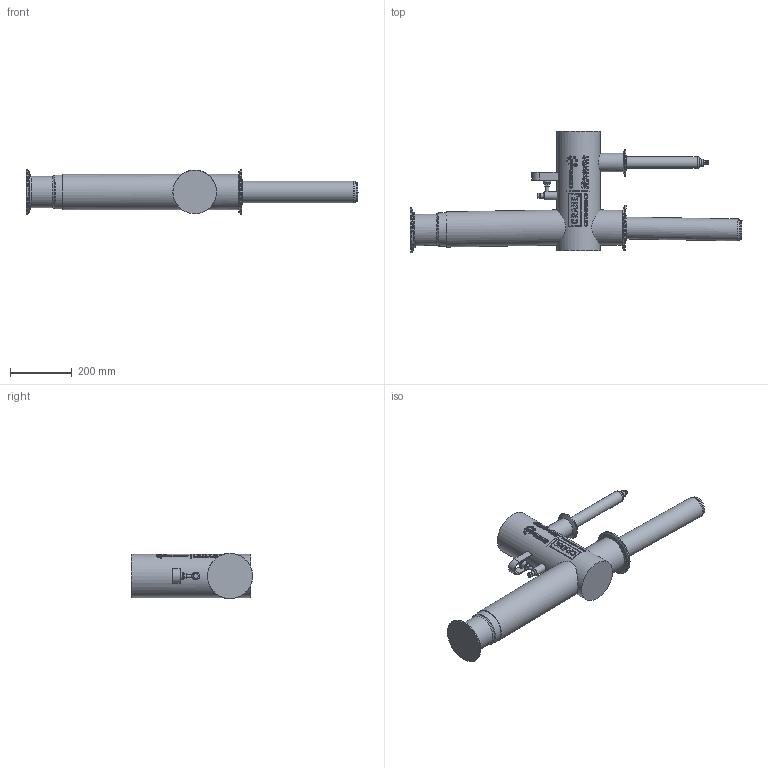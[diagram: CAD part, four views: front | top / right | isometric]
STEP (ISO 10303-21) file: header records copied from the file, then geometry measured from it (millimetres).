
FILE_DESCRIPTION (( 'STEP AP203' ), '1' );
FILE_NAME ('CA00380-TF.step', '2025-12-17T20:01:47', ( '' ), ( '' ), 'SwSTEP 2.0', 'SolidWorks 2023', '' );
FILE_SCHEMA (( 'CONFIG_CONTROL_DESIGN' ));
Length unit declared in the file: inch
Products named in the file (1): CA00380-TF
Bounding box: 1077.23 x 394.26 x 147.19 mm (x, y, z)
Volume: 13922216.5 mm3; surface area: 600110.2 mm2
Topology: 1 solids, 1 shells, 695 faces, 1737 edges, 1149 vertices
Faces by surface type: plane 419, cylinder 184, bspline 53, torus 30, cone 9
Full cylindrical faces by diameter (mm): 1.494 x1, 1.636 x1, 1.778 x1, 1.935 x4, 2.039 x1, 2.302 x1, 2.967 x1, 3.071 x1, 3.409 x1, 3.632 x1, 3.807 x1, 4.009 x1, 4.573 x1, 6.177 x1, 7.63 x1, 7.722 x1, 9.232 x1, 10.236 x2, 10.287 x1, 10.749 x1, 12.7 x1, 15.748 x2, 23.012 x1, 24.638 x1, 25.4 x1, 26.873 x1, 30.988 x1, 38.227 x1, 48.59 x1, 60.325 x1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
Entity records: 28739 total; most frequent: CARTESIAN_POINT 13814, ORIENTED_EDGE 3226, DIRECTION 2626, EDGE_CURVE 1613, VERTEX_POINT 1123, AXIS2_PLACEMENT_3D 907, EDGE_LOOP 900, VECTOR 812
